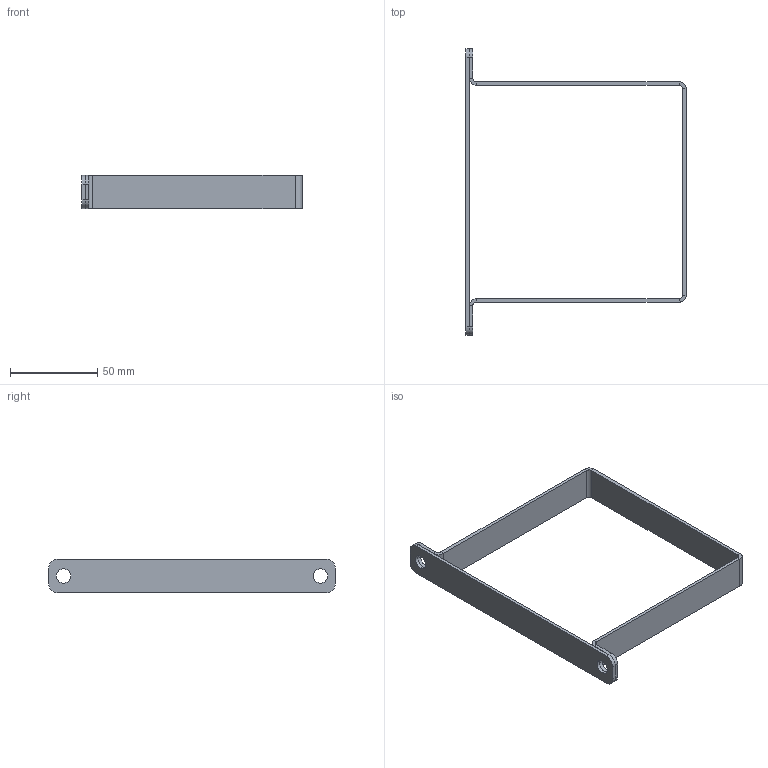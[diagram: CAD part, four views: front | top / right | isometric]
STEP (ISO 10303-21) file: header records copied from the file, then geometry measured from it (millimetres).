
FILE_DESCRIPTION (( 'STEP AP214' ), '1' );
FILE_NAME ('2022-10-05 Clamp Assembly.STEP', '2022-11-08T11:29:33', ( '' ), ( '' ), 'SwSTEP 2.0', 'SolidWorks 2022', '' );
FILE_SCHEMA (( 'AUTOMOTIVE_DESIGN' ));
Length unit declared in the file: millimetre
Products named in the file (3): Teil2; 2022-10-05 Clamp Assembly; Teil1
Assembly tree (2 placements, depth 2):
  2022-10-05 Clamp Assembly
    Teil1
    Teil2
Bounding box: 126 x 164 x 19 mm (x, y, z)
Volume: 21032 mm3; surface area: 23623.1 mm2
Topology: 2 solids, 2 shells, 60 faces, 136 edges, 80 vertices
Faces by surface type: plane 36, cylinder 24
Entity records: 1778 total; most frequent: DIRECTION 314, CARTESIAN_POINT 281, ORIENTED_EDGE 272, EDGE_CURVE 136, AXIS2_PLACEMENT_3D 113, LINE 88, VECTOR 88, VERTEX_POINT 80
